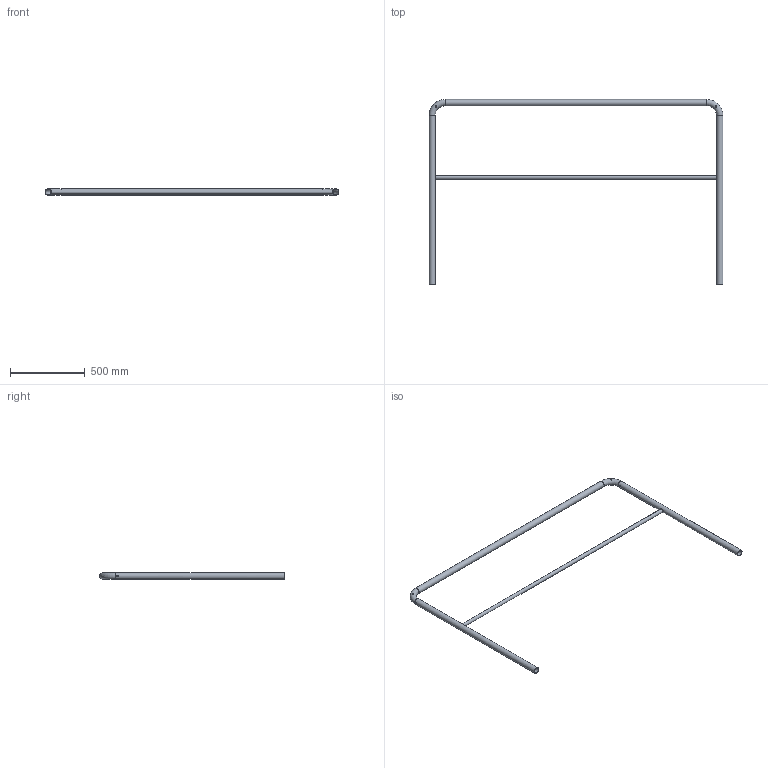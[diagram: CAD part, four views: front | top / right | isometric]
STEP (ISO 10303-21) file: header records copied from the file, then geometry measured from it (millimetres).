
FILE_DESCRIPTION((''),'2;1');
FILE_NAME('S:\Användarkataloger\AndreasA\Mina Inventor filer\Räcken\STEP\modul_ind_2000-1216.stp','2010-09-07T13:08:10',('AndreasA'),(''),'Autodesk Inventor 2011','Autodesk Inventor 2011','');
FILE_SCHEMA(('AUTOMOTIVE_DESIGN { 1 0 10303 214 1 1 1 1 }'));
Length unit declared in the file: millimetre
Products named in the file (3): modul_ind_2000-1216; handledare_modul_2000-1216; mellanliggare_modul_2000
Assembly tree (2 placements, depth 2):
  modul_ind_2000-1216
    handledare_modul_2000-1216
    mellanliggare_modul_2000
Bounding box: 1965.4 x 1237.2 x 42.4 mm (x, y, z)
Volume: 1356999.5 mm3; surface area: 1358332.7 mm2
Topology: 2 solids, 2 shells, 24 faces, 64 edges, 40 vertices
Faces by surface type: cylinder 16, torus 4, plane 4
Full cylindrical faces by diameter (mm): 10 x4, 11 x4, 21 x1, 25 x1, 38.4 x3, 42.4 x3
Entity records: 1354 total; most frequent: CARTESIAN_POINT 809, DIRECTION 90, ORIENTED_EDGE 64, EDGE_LOOP 64, AXIS2_PLACEMENT_3D 45, FACE_BOUND 40, VERTEX_POINT 32, EDGE_CURVE 32
